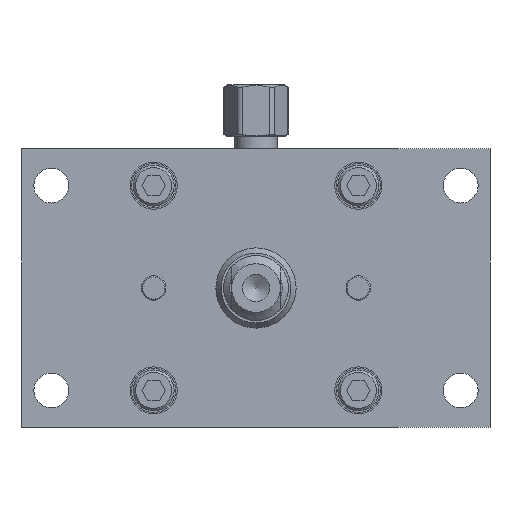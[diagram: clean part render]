
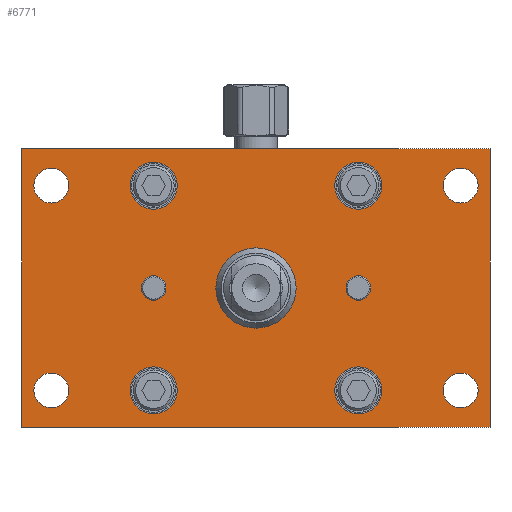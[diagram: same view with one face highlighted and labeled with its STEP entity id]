
A CAD part, front view. The second image highlights one B-rep face of the part: STEP entity #6771.
In plain terms, the highlighted planar face has unit normal (0, -1, 0) as drawn and (0, 0, -1) by its records, which use the part's own axes.
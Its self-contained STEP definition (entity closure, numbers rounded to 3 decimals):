
#201=FACE_BOUND('',#2376,.T.);
#202=FACE_BOUND('',#2377,.T.);
#203=FACE_BOUND('',#2378,.T.);
#204=FACE_BOUND('',#2379,.T.);
#205=FACE_BOUND('',#2380,.T.);
#206=FACE_BOUND('',#2381,.T.);
#207=FACE_BOUND('',#2382,.T.);
#208=FACE_BOUND('',#2383,.T.);
#209=FACE_BOUND('',#2384,.T.);
#210=FACE_BOUND('',#2385,.T.);
#211=FACE_BOUND('',#2386,.T.);
#575=PLANE('',#7699);
#984=LINE('',#11694,#1477);
#987=LINE('',#11699,#1480);
#989=LINE('',#11703,#1482);
#991=LINE('',#11706,#1484);
#1477=VECTOR('',#9352,10.);
#1480=VECTOR('',#9357,10.);
#1482=VECTOR('',#9361,10.);
#1484=VECTOR('',#9365,10.);
#1969=FACE_OUTER_BOUND('',#2375,.T.);
#2375=EDGE_LOOP('',(#5846,#5847,#5848,#5849));
#2376=EDGE_LOOP('',(#5850));
#2377=EDGE_LOOP('',(#5851,#5852));
#2378=EDGE_LOOP('',(#5853,#5854));
#2379=EDGE_LOOP('',(#5855,#5856));
#2380=EDGE_LOOP('',(#5857,#5858));
#2381=EDGE_LOOP('',(#5859,#5860));
#2382=EDGE_LOOP('',(#5861,#5862));
#2383=EDGE_LOOP('',(#5863,#5864));
#2384=EDGE_LOOP('',(#5865,#5866));
#2385=EDGE_LOOP('',(#5867,#5868));
#2386=EDGE_LOOP('',(#5869,#5870));
#2717=CIRCLE('',#7589,9.804);
#2754=CIRCLE('',#7640,3.);
#2755=CIRCLE('',#7641,3.);
#2756=CIRCLE('',#7643,3.);
#2757=CIRCLE('',#7644,3.);
#2758=CIRCLE('',#7646,4.25);
#2759=CIRCLE('',#7647,4.25);
#2760=CIRCLE('',#7649,4.25);
#2761=CIRCLE('',#7650,4.25);
#2762=CIRCLE('',#7652,4.25);
#2763=CIRCLE('',#7653,4.25);
#2764=CIRCLE('',#7655,4.25);
#2765=CIRCLE('',#7656,4.25);
#2771=CIRCLE('',#7667,5.75);
#2772=CIRCLE('',#7668,5.75);
#2776=CIRCLE('',#7675,5.75);
#2777=CIRCLE('',#7676,5.75);
#2781=CIRCLE('',#7683,5.75);
#2782=CIRCLE('',#7684,5.75);
#2786=CIRCLE('',#7691,5.75);
#2787=CIRCLE('',#7692,5.75);
#3321=VERTEX_POINT('',#11487);
#3360=VERTEX_POINT('',#11587);
#3361=VERTEX_POINT('',#11588);
#3362=VERTEX_POINT('',#11593);
#3363=VERTEX_POINT('',#11594);
#3364=VERTEX_POINT('',#11599);
#3365=VERTEX_POINT('',#11600);
#3366=VERTEX_POINT('',#11605);
#3367=VERTEX_POINT('',#11606);
#3368=VERTEX_POINT('',#11611);
#3369=VERTEX_POINT('',#11612);
#3370=VERTEX_POINT('',#11617);
#3371=VERTEX_POINT('',#11618);
#3377=VERTEX_POINT('',#11639);
#3378=VERTEX_POINT('',#11640);
#3382=VERTEX_POINT('',#11654);
#3383=VERTEX_POINT('',#11655);
#3387=VERTEX_POINT('',#11669);
#3388=VERTEX_POINT('',#11670);
#3392=VERTEX_POINT('',#11684);
#3393=VERTEX_POINT('',#11685);
#3394=VERTEX_POINT('',#11692);
#3395=VERTEX_POINT('',#11693);
#3396=VERTEX_POINT('',#11698);
#3397=VERTEX_POINT('',#11702);
#4170=EDGE_CURVE('',#3321,#3321,#2717,.T.);
#4217=EDGE_CURVE('',#3360,#3361,#2754,.T.);
#4218=EDGE_CURVE('',#3361,#3360,#2755,.T.);
#4220=EDGE_CURVE('',#3362,#3363,#2756,.T.);
#4221=EDGE_CURVE('',#3363,#3362,#2757,.T.);
#4223=EDGE_CURVE('',#3364,#3365,#2758,.T.);
#4224=EDGE_CURVE('',#3365,#3364,#2759,.T.);
#4226=EDGE_CURVE('',#3366,#3367,#2760,.T.);
#4227=EDGE_CURVE('',#3367,#3366,#2761,.T.);
#4229=EDGE_CURVE('',#3368,#3369,#2762,.T.);
#4230=EDGE_CURVE('',#3369,#3368,#2763,.T.);
#4232=EDGE_CURVE('',#3370,#3371,#2764,.T.);
#4233=EDGE_CURVE('',#3371,#3370,#2765,.T.);
#4242=EDGE_CURVE('',#3377,#3378,#2771,.T.);
#4243=EDGE_CURVE('',#3378,#3377,#2772,.T.);
#4249=EDGE_CURVE('',#3382,#3383,#2776,.T.);
#4250=EDGE_CURVE('',#3383,#3382,#2777,.T.);
#4256=EDGE_CURVE('',#3387,#3388,#2781,.T.);
#4257=EDGE_CURVE('',#3388,#3387,#2782,.T.);
#4263=EDGE_CURVE('',#3392,#3393,#2786,.T.);
#4264=EDGE_CURVE('',#3393,#3392,#2787,.T.);
#4267=EDGE_CURVE('',#3394,#3395,#984,.T.);
#4270=EDGE_CURVE('',#3396,#3394,#987,.T.);
#4272=EDGE_CURVE('',#3397,#3396,#989,.T.);
#4274=EDGE_CURVE('',#3395,#3397,#991,.T.);
#5846=ORIENTED_EDGE('',*,*,#4274,.F.);
#5847=ORIENTED_EDGE('',*,*,#4267,.F.);
#5848=ORIENTED_EDGE('',*,*,#4270,.F.);
#5849=ORIENTED_EDGE('',*,*,#4272,.F.);
#5850=ORIENTED_EDGE('',*,*,#4170,.T.);
#5851=ORIENTED_EDGE('',*,*,#4217,.T.);
#5852=ORIENTED_EDGE('',*,*,#4218,.T.);
#5853=ORIENTED_EDGE('',*,*,#4220,.T.);
#5854=ORIENTED_EDGE('',*,*,#4221,.T.);
#5855=ORIENTED_EDGE('',*,*,#4223,.T.);
#5856=ORIENTED_EDGE('',*,*,#4224,.T.);
#5857=ORIENTED_EDGE('',*,*,#4226,.T.);
#5858=ORIENTED_EDGE('',*,*,#4227,.T.);
#5859=ORIENTED_EDGE('',*,*,#4229,.T.);
#5860=ORIENTED_EDGE('',*,*,#4230,.T.);
#5861=ORIENTED_EDGE('',*,*,#4232,.T.);
#5862=ORIENTED_EDGE('',*,*,#4233,.T.);
#5863=ORIENTED_EDGE('',*,*,#4242,.T.);
#5864=ORIENTED_EDGE('',*,*,#4243,.T.);
#5865=ORIENTED_EDGE('',*,*,#4249,.T.);
#5866=ORIENTED_EDGE('',*,*,#4250,.T.);
#5867=ORIENTED_EDGE('',*,*,#4256,.T.);
#5868=ORIENTED_EDGE('',*,*,#4257,.T.);
#5869=ORIENTED_EDGE('',*,*,#4263,.T.);
#5870=ORIENTED_EDGE('',*,*,#4264,.T.);
#6771=ADVANCED_FACE('',(#1969,#201,#202,#203,#204,#205,#206,#207,#208,#209,
#210,#211),#575,.F.);
#7589=AXIS2_PLACEMENT_3D('',#11488,#9114,#9115);
#7640=AXIS2_PLACEMENT_3D('',#11589,#9226,#9227);
#7641=AXIS2_PLACEMENT_3D('',#11590,#9228,#9229);
#7643=AXIS2_PLACEMENT_3D('',#11595,#9233,#9234);
#7644=AXIS2_PLACEMENT_3D('',#11596,#9235,#9236);
#7646=AXIS2_PLACEMENT_3D('',#11601,#9240,#9241);
#7647=AXIS2_PLACEMENT_3D('',#11602,#9242,#9243);
#7649=AXIS2_PLACEMENT_3D('',#11607,#9247,#9248);
#7650=AXIS2_PLACEMENT_3D('',#11608,#9249,#9250);
#7652=AXIS2_PLACEMENT_3D('',#11613,#9254,#9255);
#7653=AXIS2_PLACEMENT_3D('',#11614,#9256,#9257);
#7655=AXIS2_PLACEMENT_3D('',#11619,#9261,#9262);
#7656=AXIS2_PLACEMENT_3D('',#11620,#9263,#9264);
#7667=AXIS2_PLACEMENT_3D('',#11641,#9288,#9289);
#7668=AXIS2_PLACEMENT_3D('',#11642,#9290,#9291);
#7675=AXIS2_PLACEMENT_3D('',#11656,#9306,#9307);
#7676=AXIS2_PLACEMENT_3D('',#11657,#9308,#9309);
#7683=AXIS2_PLACEMENT_3D('',#11671,#9324,#9325);
#7684=AXIS2_PLACEMENT_3D('',#11672,#9326,#9327);
#7691=AXIS2_PLACEMENT_3D('',#11686,#9342,#9343);
#7692=AXIS2_PLACEMENT_3D('',#11687,#9344,#9345);
#7699=AXIS2_PLACEMENT_3D('',#11708,#9368,#9369);
#9114=DIRECTION('center_axis',(0.,0.,1.));
#9115=DIRECTION('ref_axis',(1.,0.,0.));
#9226=DIRECTION('center_axis',(0.,0.,1.));
#9227=DIRECTION('ref_axis',(-1.,0.,0.));
#9228=DIRECTION('center_axis',(0.,0.,1.));
#9229=DIRECTION('ref_axis',(-1.,0.,0.));
#9233=DIRECTION('center_axis',(0.,0.,1.));
#9234=DIRECTION('ref_axis',(-1.,0.,0.));
#9235=DIRECTION('center_axis',(0.,0.,1.));
#9236=DIRECTION('ref_axis',(-1.,0.,0.));
#9240=DIRECTION('center_axis',(0.,0.,1.));
#9241=DIRECTION('ref_axis',(-1.,0.,0.));
#9242=DIRECTION('center_axis',(0.,0.,1.));
#9243=DIRECTION('ref_axis',(-1.,0.,0.));
#9247=DIRECTION('center_axis',(0.,0.,1.));
#9248=DIRECTION('ref_axis',(-1.,0.,0.));
#9249=DIRECTION('center_axis',(0.,0.,1.));
#9250=DIRECTION('ref_axis',(-1.,0.,0.));
#9254=DIRECTION('center_axis',(0.,0.,1.));
#9255=DIRECTION('ref_axis',(-1.,0.,0.));
#9256=DIRECTION('center_axis',(0.,0.,1.));
#9257=DIRECTION('ref_axis',(-1.,0.,0.));
#9261=DIRECTION('center_axis',(0.,0.,1.));
#9262=DIRECTION('ref_axis',(-1.,0.,0.));
#9263=DIRECTION('center_axis',(0.,0.,1.));
#9264=DIRECTION('ref_axis',(-1.,0.,0.));
#9288=DIRECTION('center_axis',(0.,0.,1.));
#9289=DIRECTION('ref_axis',(-1.,0.,0.));
#9290=DIRECTION('center_axis',(0.,0.,1.));
#9291=DIRECTION('ref_axis',(-1.,0.,0.));
#9306=DIRECTION('center_axis',(0.,0.,1.));
#9307=DIRECTION('ref_axis',(-1.,0.,0.));
#9308=DIRECTION('center_axis',(0.,0.,1.));
#9309=DIRECTION('ref_axis',(-1.,0.,0.));
#9324=DIRECTION('center_axis',(0.,0.,1.));
#9325=DIRECTION('ref_axis',(-1.,0.,0.));
#9326=DIRECTION('center_axis',(0.,0.,1.));
#9327=DIRECTION('ref_axis',(-1.,0.,0.));
#9342=DIRECTION('center_axis',(0.,0.,1.));
#9343=DIRECTION('ref_axis',(-1.,0.,0.));
#9344=DIRECTION('center_axis',(0.,0.,1.));
#9345=DIRECTION('ref_axis',(-1.,0.,0.));
#9352=DIRECTION('',(-1.,0.,0.));
#9357=DIRECTION('',(0.,1.,0.));
#9361=DIRECTION('',(1.,0.,0.));
#9365=DIRECTION('',(0.,-1.,0.));
#9368=DIRECTION('center_axis',(0.,0.,1.));
#9369=DIRECTION('ref_axis',(1.,0.,0.));
#11487=CARTESIAN_POINT('',(-9.804,0.,0.));
#11488=CARTESIAN_POINT('Origin',(0.,0.,0.));
#11587=CARTESIAN_POINT('',(-28.,0.,0.));
#11588=CARTESIAN_POINT('',(-22.,0.,0.));
#11589=CARTESIAN_POINT('Origin',(-25.,0.,0.));
#11590=CARTESIAN_POINT('Origin',(-25.,0.,0.));
#11593=CARTESIAN_POINT('',(22.,0.,0.));
#11594=CARTESIAN_POINT('',(28.,0.,0.));
#11595=CARTESIAN_POINT('Origin',(25.,0.,0.));
#11596=CARTESIAN_POINT('Origin',(25.,0.,0.));
#11599=CARTESIAN_POINT('',(45.75,25.,0.));
#11600=CARTESIAN_POINT('',(54.25,25.,0.));
#11601=CARTESIAN_POINT('Origin',(50.,25.,0.));
#11602=CARTESIAN_POINT('Origin',(50.,25.,0.));
#11605=CARTESIAN_POINT('',(-54.25,-25.,0.));
#11606=CARTESIAN_POINT('',(-45.75,-25.,0.));
#11607=CARTESIAN_POINT('Origin',(-50.,-25.,0.));
#11608=CARTESIAN_POINT('Origin',(-50.,-25.,0.));
#11611=CARTESIAN_POINT('',(-54.25,25.,0.));
#11612=CARTESIAN_POINT('',(-45.75,25.,0.));
#11613=CARTESIAN_POINT('Origin',(-50.,25.,0.));
#11614=CARTESIAN_POINT('Origin',(-50.,25.,0.));
#11617=CARTESIAN_POINT('',(45.75,-25.,0.));
#11618=CARTESIAN_POINT('',(54.25,-25.,0.));
#11619=CARTESIAN_POINT('Origin',(50.,-25.,0.));
#11620=CARTESIAN_POINT('Origin',(50.,-25.,0.));
#11639=CARTESIAN_POINT('',(19.25,25.,0.));
#11640=CARTESIAN_POINT('',(30.75,25.,0.));
#11641=CARTESIAN_POINT('Origin',(25.,25.,0.));
#11642=CARTESIAN_POINT('Origin',(25.,25.,0.));
#11654=CARTESIAN_POINT('',(-30.75,-25.,0.));
#11655=CARTESIAN_POINT('',(-19.25,-25.,0.));
#11656=CARTESIAN_POINT('Origin',(-25.,-25.,0.));
#11657=CARTESIAN_POINT('Origin',(-25.,-25.,0.));
#11669=CARTESIAN_POINT('',(19.25,-25.,0.));
#11670=CARTESIAN_POINT('',(30.75,-25.,0.));
#11671=CARTESIAN_POINT('Origin',(25.,-25.,0.));
#11672=CARTESIAN_POINT('Origin',(25.,-25.,0.));
#11684=CARTESIAN_POINT('',(-30.75,25.,0.));
#11685=CARTESIAN_POINT('',(-19.25,25.,0.));
#11686=CARTESIAN_POINT('Origin',(-25.,25.,0.));
#11687=CARTESIAN_POINT('Origin',(-25.,25.,0.));
#11692=CARTESIAN_POINT('',(57.15,34.,0.));
#11693=CARTESIAN_POINT('',(-57.15,34.,0.));
#11694=CARTESIAN_POINT('',(57.15,34.,0.));
#11698=CARTESIAN_POINT('',(57.15,-34.,0.));
#11699=CARTESIAN_POINT('',(57.15,-34.,0.));
#11702=CARTESIAN_POINT('',(-57.15,-34.,0.));
#11703=CARTESIAN_POINT('',(-57.15,-34.,0.));
#11706=CARTESIAN_POINT('',(-57.15,34.,0.));
#11708=CARTESIAN_POINT('Origin',(0.,0.,
0.));
